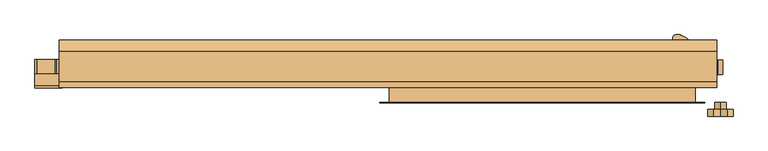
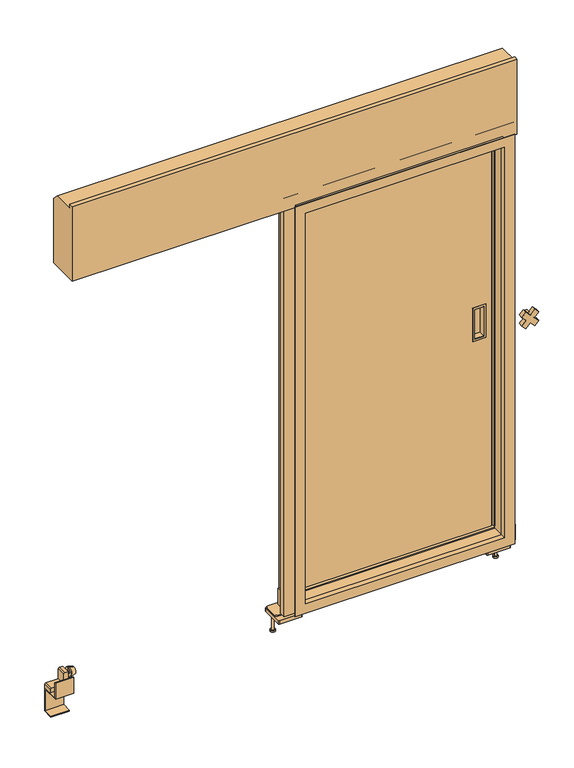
"""IFC4 building model written with IfcOpenShell, lengths in millimetres: door geometry, 冷蔵_片引きスライドドア4方_自閉 : W870xH1800xt55."""

from ifc_helpers import new_model, si_unit, point, frame, frame_2d, origin, place, context, project, spatial, polyline, circle_curve, trimmed, segment, composite_curve, outline, extrude, faceted_brep, source, transform, mapped, element, save
from ifc_brep_helpers import plane_surface, cylinder_surface, revolved_surface, advanced_brep


def door_ed1821af(model_context):
    return source(origin(), model_context, "Body", "SolidModel", [
        faceted_brep([(470.0, 112.5, 1835.0), (-470.0, 112.5, 1835.0), (-470.0, 68.5, 1835.0), (470.0, 68.5, 1835.0), (470.0, 112.5, -35.0), (470.0, 68.5, -35.0), (-470.0, 68.5, -35.0), (-470.0, 112.5, -35.0), (-425.0, 68.5, 1790.0), (425.0, 68.5, 1790.0), (425.0, 68.5, 10.0), (-425.0, 68.5, 10.0), (-425.0, 57.5, 1790.0), (425.0, 57.5, 1790.0), (425.0, 57.5, 10.0), (-425.0, 57.5, 10.0), (350.500035, 57.5, 1033.0), (390.500035, 57.5, 1033.0), (390.500035, 57.5, 897.0), (350.500035, 57.5, 897.0), (350.500035, 85.5, 1033.0), (390.500035, 85.5, 1033.0), (350.500035, 85.5, 897.0), (390.500035, 85.5, 897.0)], [[[0, 1, 2, 3]], [[4, 5, 6, 7]], [[1, 0, 4, 7]], [[2, 1, 7, 6]], [[3, 2, 6, 5], [8, 9, 10, 11]], [[0, 3, 5, 4]], [[8, 12, 13, 9]], [[10, 14, 15, 11]], [[12, 8, 11, 15]], [[13, 12, 15, 14], [16, 17, 18, 19]], [[9, 13, 14, 10]], [[20, 21, 17, 16]], [[20, 16, 19, 22]], [[22, 19, 18, 23]], [[17, 21, 23, 18]], [[21, 20, 22, 23]]]),
        extrude(outline(polyline([(1042.0, 399.500035), (1042.0, 341.500035), (888.0, 341.500035), (888.0, 399.500035), (1042.0, 399.500035)]), holes=[polyline([(897.0, 390.500035), (897.0, 350.500035), (1033.0, 350.500035), (1033.0, 390.500035), (897.0, 390.500035)])]), frame((0.0, 55.499995, 0.0), z_axis=(0.0, 1.0, 0.0), x_axis=(0.0, 0.0, 1.0)), (0.0, 0.0, 1.0), 2.000005),
        extrude(outline(polyline([(73.49997, -69.99999), (61.49997, -57.99999), (61.49997, 5.00001), (111.49997, 5.00001), (111.49997, -69.99999), (73.49997, -69.99999)])), frame((-476.0, 0.0, 0.0), z_axis=(1.0, 0.0, 0.0), x_axis=(0.0, 1.0, 0.0)), (0.0, 0.0, 1.0), 6.0),
        extrude(outline(polyline([(73.49997, -69.99999), (61.49997, -57.99999), (61.49997, 5.00001), (111.49997, 5.00001), (111.49997, -69.99999), (73.49997, -69.99999)])), frame((470.0, 0.0, 0.0), z_axis=(1.0, 0.0, 0.0), x_axis=(0.0, 1.0, 0.0)), (0.0, 0.0, 1.0), 6.0),
        extrude(outline(polyline([(470.0, 112.5), (470.0, 77.49997), (-470.0, 77.49997), (-470.0, 112.5), (470.0, 112.5)])), frame((0.0, 0.0, -69.99999), z_axis=(0.0, 0.0, 1.0), x_axis=(1.0, 0.0, 0.0)), (0.0, 0.0, 1.0), 34.99999),
        extrude(outline(polyline([(-460.4985861, 68.5), (460.4985861, 68.5), (460.4985861, 51.499345), (-460.4985861, 51.499345), (-460.4985861, 68.5)])), frame((0.0, 0.0, -25.0), z_axis=(0.0, 0.0, 1.0), x_axis=(1.0, 0.0, 0.0)), (0.0, 0.0, 1.0), 28.0),
        extrude(outline(polyline([(460.4985861, 48.9116213), (432.5014439, 48.9116213), (432.5014439, 68.5), (460.4985861, 68.5), (460.4985861, 48.9116213)])), frame((0.0, 0.0, 10.0), z_axis=(0.0, 0.0, 1.0), x_axis=(1.0, 0.0, 0.0)), (0.0, 0.0, 1.0), 1780.0),
        extrude(outline(polyline([(-460.4985861, 48.9116213), (-460.4985861, 68.5), (-432.5014439, 68.5), (-432.5014439, 48.9116213), (-460.4985861, 48.9116213)])), frame((0.0, 0.0, 10.0), z_axis=(0.0, 0.0, 1.0), x_axis=(1.0, 0.0, 0.0)), (0.0, 0.0, 1.0), 1780.0),
        extrude(outline(polyline([(460.4985861, 68.5), (460.4985861, 48.9116213), (-460.4985861, 48.9116213), (-460.4985861, 68.5), (460.4985861, 68.5)])), frame((0.0, 0.0, 1797.4986091), z_axis=(0.0, 0.0, 1.0), x_axis=(1.0, 0.0, 0.0)), (0.0, 0.0, 1.0), 28.0),
        extrude(outline(composite_curve([segment(trimmed(circle_curve(frame_2d((-405.4900822, 152.0220459)), 2.0), [point((-405.4900822, 154.0220459))], [point((-403.4900822, 152.0220459))], False, "CARTESIAN"), True, "CONTINUOUS"), segment(polyline([(-403.4900822, 152.0220459), (-403.4900822, 54.0220459)]), True, "CONTINUOUS"), segment(trimmed(circle_curve(frame_2d((-405.4900822, 54.0220459)), 2.0), [point((-403.4900822, 54.0220459))], [point((-405.4900822, 52.0220459))], False, "CARTESIAN"), True, "CONTINUOUS"), segment(polyline([(-405.4900822, 52.0220459), (-503.4900822, 52.0220459)]), True, "CONTINUOUS"), segment(trimmed(circle_curve(frame_2d((-503.4900822, 54.0220459)), 2.0), [point((-503.4900822, 52.0220459))], [point((-505.4900822, 54.0220459))], False, "CARTESIAN"), True, "CONTINUOUS"), segment(polyline([(-505.4900822, 54.0220459), (-505.4900822, 152.0220459)]), True, "CONTINUOUS"), segment(trimmed(circle_curve(frame_2d((-503.4900822, 152.0220459)), 2.0), [point((-505.4900822, 152.0220459))], [point((-503.4900822, 154.0220459))], False, "CARTESIAN"), True, "CONTINUOUS"), segment(polyline([(-503.4900822, 154.0220459), (-405.4900822, 154.0220459)]), True, "CONTINUOUS")], self_intersect=False)), frame((0.0, 0.0, -115.0), z_axis=(0.0, 0.0, 1.0), x_axis=(1.0, 0.0, 0.0)), (0.0, 0.0, 1.0), 15.0),
        extrude(outline(composite_curve([segment(polyline([(-434.000235, 141.49999), (-434.000235, 90.49999)]), True, "CONTINUOUS"), segment(trimmed(circle_curve(frame_2d((-444.000235, 90.49999)), 10.0), [point((-434.000235, 90.49999))], [point((-444.000235, 80.49999))], False, "CARTESIAN"), True, "CONTINUOUS"), segment(polyline([(-444.000235, 80.49999), (-495.00103, 80.49999)]), True, "CONTINUOUS"), segment(trimmed(circle_curve(frame_2d((-495.00103, 90.49999)), 10.0), [point((-495.00103, 80.49999))], [point((-505.00103, 90.49999))], False, "CARTESIAN"), True, "CONTINUOUS"), segment(polyline([(-505.00103, 90.49999), (-505.00103, 141.49999)]), True, "CONTINUOUS"), segment(trimmed(circle_curve(frame_2d((-495.00103, 141.49999)), 10.0), [point((-505.00103, 141.49999))], [point((-495.00103, 151.49999))], False, "CARTESIAN"), True, "CONTINUOUS"), segment(polyline([(-495.00103, 151.49999), (-444.000235, 151.49999)]), True, "CONTINUOUS"), segment(trimmed(circle_curve(frame_2d((-444.000235, 141.49999)), 10.0), [point((-444.000235, 151.49999))], [point((-434.000235, 141.49999))], False, "CARTESIAN"), True, "CONTINUOUS")], self_intersect=False)), frame((0.0, 0.0, -100.0), z_axis=(0.0, 0.0, 1.0), x_axis=(1.0, 0.0, 0.0)), (0.0, 0.0, 1.0), 6.0),
        extrude(outline(composite_curve([segment(trimmed(circle_curve(frame_2d((503.00095, 152.0)), 2.0), [point((503.00095, 154.0))], [point((505.00095, 152.0))], False, "CARTESIAN"), True, "CONTINUOUS"), segment(polyline([(505.00095, 152.0), (505.00095, 54.0)]), True, "CONTINUOUS"), segment(trimmed(circle_curve(frame_2d((503.00095, 54.0)), 2.0), [point((505.00095, 54.0))], [point((503.00095, 52.0))], False, "CARTESIAN"), True, "CONTINUOUS"), segment(polyline([(503.00095, 52.0), (405.00095, 52.0)]), True, "CONTINUOUS"), segment(trimmed(circle_curve(frame_2d((405.00095, 54.0)), 2.0), [point((405.00095, 52.0))], [point((403.00095, 54.0))], False, "CARTESIAN"), True, "CONTINUOUS"), segment(polyline([(403.00095, 54.0), (403.00095, 152.0)]), True, "CONTINUOUS"), segment(trimmed(circle_curve(frame_2d((405.00095, 152.0)), 2.0), [point((403.00095, 152.0))], [point((405.00095, 154.0))], False, "CARTESIAN"), True, "CONTINUOUS"), segment(polyline([(405.00095, 154.0), (503.00095, 154.0)]), True, "CONTINUOUS")], self_intersect=False)), frame((0.0, 0.0, -115.0), z_axis=(0.0, 0.0, 1.0), x_axis=(1.0, 0.0, 0.0)), (0.0, 0.0, 1.0), 15.0),
        extrude(outline(composite_curve([segment(polyline([(504.50103, 141.49999), (504.50103, 90.49999)]), True, "CONTINUOUS"), segment(trimmed(circle_curve(frame_2d((494.50103, 90.49999)), 10.0), [point((504.50103, 90.49999))], [point((494.50103, 80.49999))], False, "CARTESIAN"), True, "CONTINUOUS"), segment(polyline([(494.50103, 80.49999), (443.500235, 80.49999)]), True, "CONTINUOUS"), segment(trimmed(circle_curve(frame_2d((443.500235, 90.49999)), 10.0), [point((443.500235, 80.49999))], [point((433.500235, 90.49999))], False, "CARTESIAN"), True, "CONTINUOUS"), segment(polyline([(433.500235, 90.49999), (433.500235, 141.49999)]), True, "CONTINUOUS"), segment(trimmed(circle_curve(frame_2d((443.500235, 141.49999)), 10.0), [point((433.500235, 141.49999))], [point((443.500235, 151.49999))], False, "CARTESIAN"), True, "CONTINUOUS"), segment(polyline([(443.500235, 151.49999), (494.50103, 151.49999)]), True, "CONTINUOUS"), segment(trimmed(circle_curve(frame_2d((494.50103, 141.49999)), 10.0), [point((494.50103, 151.49999))], [point((504.50103, 141.49999))], False, "CARTESIAN"), True, "CONTINUOUS")], self_intersect=False)), frame((0.0, 0.0, -100.0), z_axis=(0.0, 0.0, 1.0), x_axis=(1.0, 0.0, 0.0)), (0.0, 0.0, 1.0), 6.0),
        extrude(outline(polyline([(-93.999374, 532.0), (-24.00937, 532.0), (-24.00229, 517.0), (-29.00275, 511.99999), (-74.00938, 511.99999), (-74.00689, 457.0), (-79.00735, 451.99999), (-94.00939, 451.99999), (-93.999374, 532.0)])), frame((0.0, 61.99775, 0.0), z_axis=(0.0, 1.0, 0.0), x_axis=(0.0, 0.0, 1.0)), (0.0, 0.0, 1.0), 42.00225),
        extrude(outline(polyline([(1037.123106, 544.9454365), (1017.6776695, 525.5), (1037.123106, 506.0545635), (1019.4454365, 488.376894), (1000.0, 507.8223305), (980.5545635, 488.376894), (962.876894, 506.0545635), (982.3223305, 525.5), (962.876894, 544.9454365), (980.5545635, 562.623106), (1000.0, 543.1776695), (1019.4454365, 562.623106), (1037.123106, 544.9454365)])), frame((0.0, -62.0, 0.0), z_axis=(0.0, 1.0, 0.0), x_axis=(0.0, 0.0, 1.0)), (0.0, 0.0, 1.0), 20.0),
        extrude(outline(composite_curve([segment(trimmed(circle_curve(frame_2d((1000.0, 525.5)), 16.99999), [point((983.00001, 525.5))], [point((1016.99999, 525.5))], False, "CARTESIAN"), True, "CONTINUOUS"), segment(trimmed(circle_curve(frame_2d((1000.0, 525.5)), 16.99999), [point((1016.99999, 525.5))], [point((983.00001, 525.5))], False, "CARTESIAN"), True, "CONTINUOUS")], self_intersect=False)), frame((0.0, -42.0, 0.0), z_axis=(0.0, 1.0, 0.0), x_axis=(0.0, 0.0, 1.0)), (0.0, 0.0, 1.0), 20.0),
        advanced_brep(
        [(-1404.999995, 85.0, -58.99311), (-1404.999995, 85.0, -19.0), (-1404.999995, 85.0, -30.996555), (-1404.999995, 85.0, -46.996555), (-1400.999995, 85.0, -58.99311), (-1400.999995, 85.0, -19.0), (-1380.999995, 85.0, -53.9931073), (-1380.999995, 85.0, -24.0000027), (-1380.999995, 85.0, -38.996555), (-1416.99999, 85.0, -46.996555), (-1416.99999, 85.0, -30.996555), (-1416.99999, 85.0, -38.996555)],
        [
            (0, 1, circle_curve(frame((-1404.999995, 85.0, -38.996555), z_axis=(-1.0, 0.0, 0.0), x_axis=(0.0, 0.0, 1.0)), 19.996555)),
            (1, 2),
            (2, 3, circle_curve(frame((-1404.999995, 85.0, -38.996555), z_axis=(1.0, 0.0, 0.0), x_axis=(0.0, 0.0, 1.0)), 8.0)),
            (3, 0),
            (1, 0, circle_curve(frame((-1404.999995, 85.0, -38.996555), z_axis=(-1.0, 0.0, 0.0), x_axis=(0.0, 0.0, 1.0)), 19.996555)),
            (3, 2, circle_curve(frame((-1404.999995, 85.0, -38.996555), z_axis=(1.0, 0.0, 0.0), x_axis=(0.0, 0.0, 1.0)), 8.0)),
            (4, 5, circle_curve(frame((-1400.999995, 85.0, -38.996555), z_axis=(-1.0, 0.0, 0.0), x_axis=(0.0, 0.0, 1.0)), 19.996555)),
            (5, 1),
            (0, 4),
            (5, 4, circle_curve(frame((-1400.999995, 85.0, -38.996555), z_axis=(-1.0, 0.0, 0.0), x_axis=(0.0, 0.0, 1.0)), 19.996555)),
            (6, 7, circle_curve(frame((-1380.999995, 85.0, -38.996555), z_axis=(-1.0, 0.0, 0.0), x_axis=(0.0, 0.0, 1.0)), 14.9965523)),
            (7, 5),
            (4, 6),
            (7, 6, circle_curve(frame((-1380.999995, 85.0, -38.996555), z_axis=(-1.0, 0.0, 0.0), x_axis=(0.0, 0.0, 1.0)), 14.9965523)),
            (8, 7),
            (6, 8),
            (9, 10, circle_curve(frame((-1416.99999, 85.0, -38.996555), z_axis=(-1.0, 0.0, 0.0), x_axis=(0.0, 0.0, 1.0)), 8.0)),
            (10, 11),
            (11, 9),
            (10, 9, circle_curve(frame((-1416.99999, 85.0, -38.996555), z_axis=(-1.0, 0.0, 0.0), x_axis=(0.0, 0.0, 1.0)), 8.0)),
            (2, 10),
            (9, 3),
        ],
        [
            plane_surface(frame((-1404.999995, 85.0, -38.996555), z_axis=(-1.0, 0.0, 0.0), x_axis=(0.0, 0.0, 1.0))),
            cylinder_surface(frame((-1380.999995, 85.0, -38.996555), z_axis=(1.0, 0.0, 0.0), x_axis=(0.0, 0.0, 1.0)), 19.996555),
            revolved_surface(polyline([(-1400.999995, 85.0, -19.0), (-1380.999995, 85.0, -24.0000027)]), (-1380.999995, 85.0, -38.996555), (1.0, 0.0, 0.0)),
            plane_surface(frame((-1380.999995, 85.0, -38.996555), z_axis=(1.0, 0.0, 0.0), x_axis=(0.0, 0.0, 1.0))),
            plane_surface(frame((-1416.99999, 85.0, -38.996555), z_axis=(-1.0, 0.0, 0.0), x_axis=(0.0, 0.0, 1.0))),
            cylinder_surface(frame((-1380.999995, 85.0, -38.996555), z_axis=(1.0, 0.0, 0.0), x_axis=(0.0, 0.0, 1.0)), 8.0),
        ],
        [
            (0, [[1, 2, 3, 4]]),
            (0, [[5, -4, 6, -2]]),
            (1, [[7, 8, -1, 9]]),
            (1, [[10, -9, -5, -8]]),
            (2, [[11, 12, -7, 13]]),
            (2, [[14, -13, -10, -12]]),
            (3, [[15, -11, 16]]),
            (3, [[-16, -14, -15]]),
            (4, [[17, 18, 19]]),
            (4, [[20, -19, -18]]),
            (5, [[-3, 21, -17, 22]]),
            (5, [[-6, -22, -20, -21]]),
        ],
    ),
        extrude(outline(polyline([(-91.983954, -1416.99999), (-21.99395, -1416.99999), (-21.98687, -1431.99999), (-26.98733, -1437.0), (-71.99396, -1437.0), (-71.99147, -1491.99999), (-76.99193, -1497.0), (-91.99397, -1497.0), (-91.983954, -1416.99999)])), frame((0.0, 63.99775, 0.0), z_axis=(0.0, 1.0, 0.0), x_axis=(0.0, 0.0, 1.0)), (0.0, 0.0, 1.0), 42.00225),
        advanced_brep(
        [(499.999995, 83.0, -61.00853), (499.999995, 83.0, -21.01542), (499.999995, 83.0, -33.011975), (499.999995, 83.0, -49.011975), (495.999995, 83.0, -61.00853), (495.999995, 83.0, -21.01542), (475.999995, 83.0, -56.0085273), (475.999995, 83.0, -26.0154227), (475.999995, 83.0, -41.011975), (511.99999, 83.0, -49.011975), (511.99999, 83.0, -33.011975), (511.99999, 83.0, -41.011975)],
        [
            (0, 1, circle_curve(frame((499.999995, 83.0, -41.011975), z_axis=(1.0, 0.0, 0.0), x_axis=(0.0, 0.0, 1.0)), 19.996555)),
            (1, 2),
            (2, 3, circle_curve(frame((499.999995, 83.0, -41.011975), z_axis=(-1.0, 0.0, 0.0), x_axis=(0.0, 0.0, 1.0)), 8.0)),
            (3, 0),
            (1, 0, circle_curve(frame((499.999995, 83.0, -41.011975), z_axis=(1.0, 0.0, 0.0), x_axis=(0.0, 0.0, 1.0)), 19.996555)),
            (3, 2, circle_curve(frame((499.999995, 83.0, -41.011975), z_axis=(-1.0, 0.0, 0.0), x_axis=(0.0, 0.0, 1.0)), 8.0)),
            (4, 5, circle_curve(frame((495.999995, 83.0, -41.011975), z_axis=(1.0, 0.0, 0.0), x_axis=(0.0, 0.0, 1.0)), 19.996555)),
            (5, 1),
            (0, 4),
            (5, 4, circle_curve(frame((495.999995, 83.0, -41.011975), z_axis=(1.0, 0.0, 0.0), x_axis=(0.0, 0.0, 1.0)), 19.996555)),
            (6, 7, circle_curve(frame((475.999995, 83.0, -41.011975), z_axis=(1.0, 0.0, 0.0), x_axis=(0.0, 0.0, 1.0)), 14.9965523)),
            (7, 5),
            (4, 6),
            (7, 6, circle_curve(frame((475.999995, 83.0, -41.011975), z_axis=(1.0, 0.0, 0.0), x_axis=(0.0, 0.0, 1.0)), 14.9965523)),
            (8, 7),
            (6, 8),
            (9, 10, circle_curve(frame((511.99999, 83.0, -41.011975), z_axis=(1.0, 0.0, 0.0), x_axis=(0.0, 0.0, 1.0)), 8.0)),
            (10, 11),
            (11, 9),
            (10, 9, circle_curve(frame((511.99999, 83.0, -41.011975), z_axis=(1.0, 0.0, 0.0), x_axis=(0.0, 0.0, 1.0)), 8.0)),
            (2, 10),
            (9, 3),
        ],
        [
            plane_surface(frame((499.999995, 83.0, -41.011975), z_axis=(1.0, 0.0, 0.0), x_axis=(0.0, 0.0, 1.0))),
            cylinder_surface(frame((475.999995, 83.0, -41.011975), z_axis=(-1.0, 0.0, 0.0), x_axis=(0.0, 0.0, 1.0)), 19.996555),
            revolved_surface(polyline([(495.999995, 83.0, -21.01542), (475.999995, 83.0, -26.0154227)]), (475.999995, 83.0, -41.011975), (-1.0, 0.0, 0.0)),
            plane_surface(frame((475.999995, 83.0, -41.011975), z_axis=(-1.0, 0.0, 0.0), x_axis=(0.0, 0.0, 1.0))),
            plane_surface(frame((511.99999, 83.0, -41.011975), z_axis=(1.0, 0.0, 0.0), x_axis=(0.0, 0.0, 1.0))),
            cylinder_surface(frame((475.999995, 83.0, -41.011975), z_axis=(-1.0, 0.0, 0.0), x_axis=(0.0, 0.0, 1.0)), 8.0),
        ],
        [
            (0, [[1, 2, 3, 4]]),
            (0, [[5, -4, 6, -2]]),
            (1, [[7, 8, -1, 9]]),
            (1, [[10, -9, -5, -8]]),
            (2, [[11, 12, -7, 13]]),
            (2, [[14, -13, -10, -12]]),
            (3, [[15, -11, 16]]),
            (3, [[-16, -14, -15]]),
            (4, [[17, 18, 19]]),
            (4, [[20, -19, -18]]),
            (5, [[-3, 21, -17, 22]]),
            (5, [[-6, -22, -20, -21]]),
        ],
    ),
        extrude(outline(polyline([(162.5, 2102.61005), (162.5, 1805.000385), (22.0, 1805.000385), (22.0, 2150.0), (38.499875, 2150.0), (38.499875, 2134.99995), (130.1101, 2134.99995), (162.5, 2102.61005)])), frame((-1425.0, 0.0, 0.0), z_axis=(1.0, 0.0, 0.0), x_axis=(0.0, 1.0, 0.0)), (0.0, 0.0, 1.0), 1940.0),
        faceted_brep([(451.00103, 22.0, -16.00103), (451.00103, -22.0, -16.00103), (-451.00103, -22.0, -16.00103), (-451.00103, 22.0, -16.00103), (-451.00103, -22.0, 1816.00103), (-451.00103, 22.0, 1816.00103), (451.00103, -22.0, 1816.00103), (-435.0, -22.0, 1800.0), (435.0, -22.0, 1800.0), (435.0, -22.0, 0.0), (-435.0, -22.0, 0.0), (-500.0, 22.0, -65.0), (500.0, 22.0, -65.0), (500.0, 22.0, 1865.0), (-500.0, 22.0, 1865.0), (451.00103, 22.0, 1816.00103), (500.0, 49.0, -65.0), (-500.0, 49.0, -65.0), (-500.0, 49.0, 1865.0), (500.0, 49.0, 1865.0), (-435.0, 49.0, 0.0), (435.0, 49.0, 0.0), (435.0, 49.0, 1800.0), (-435.0, 49.0, 1800.0)], [[[0, 1, 2, 3]], [[3, 2, 4, 5]], [[2, 1, 6, 4], [7, 8, 9, 10]], [[11, 12, 13, 14], [5, 15, 0, 3]], [[16, 12, 11, 17]], [[17, 11, 14, 18]], [[18, 19, 16, 17], [20, 21, 22, 23]], [[9, 21, 20, 10]], [[10, 20, 23, 7]], [[15, 6, 1, 0]], [[19, 13, 12, 16]], [[8, 22, 21, 9]], [[5, 4, 6, 15]], [[18, 14, 13, 19]], [[7, 23, 22, 8]]]),
        faceted_brep([(479.0, -22.0, -44.0), (479.0, -23.2, -44.0), (-479.0, -23.2, -44.0), (-479.0, -22.0, -44.0), (-479.0, -23.2, 1844.0), (-479.0, -22.0, 1844.0), (479.0, -23.2, 1844.0), (-433.8, -23.2, 1798.8), (433.8, -23.2, 1798.8), (433.8, -23.2, 1.2), (-433.8, -23.2, 1.2), (479.0, -22.0, 1844.0), (-435.0, -22.0, 0.0), (435.0, -22.0, 0.0), (435.0, -22.0, 1800.0), (-435.0, -22.0, 1800.0), (435.0, -1.2, 0.0), (-435.0, -1.2, 0.0), (-435.0, -1.2, 1800.0), (435.0, -1.2, 1800.0), (-433.8, -1.2, 1.2), (433.8, -1.2, 1.2), (433.8, -1.2, 1798.8), (-433.8, -1.2, 1798.8)], [[[0, 1, 2, 3]], [[3, 2, 4, 5]], [[2, 1, 6, 4], [7, 8, 9, 10]], [[5, 11, 0, 3], [12, 13, 14, 15]], [[16, 13, 12, 17]], [[17, 12, 15, 18]], [[18, 19, 16, 17], [20, 21, 22, 23]], [[9, 21, 20, 10]], [[10, 20, 23, 7]], [[11, 6, 1, 0]], [[19, 14, 13, 16]], [[8, 22, 21, 9]], [[5, 4, 6, 11]], [[18, 15, 14, 19]], [[7, 23, 22, 8]]]),
        advanced_brep(
        [(408.6234406, 177.3571279, 745.0), (408.6234402, 157.6428419, 745.0), (404.50281, 156.499985, 745.0), (393.89726, 156.499985, 745.0), (389.7766295, 157.6428424, 745.0), (389.7766298, 177.3571281, 745.0), (393.89726, 178.499985, 745.0), (404.50281, 178.499985, 745.0), (408.6234406, 177.3571279, 1245.0), (408.6234402, 157.6428419, 1245.0), (404.50281, 156.499985, 1245.0), (393.89726, 156.499985, 1245.0), (389.7766295, 157.6428424, 1245.0), (389.7766298, 177.3571281, 1245.0), (393.89726, 178.499985, 1245.0), (404.50281, 178.499985, 1245.0)],
        [
            (0, 1, circle_curve(frame((402.700035, 167.499985, 745.0), z_axis=(0.0, 0.0, -1.0), x_axis=(0.0, -1.0, 0.0)), 11.5)),
            (1, 2, circle_curve(frame((404.50281, 164.499985, 745.0), z_axis=(0.0, 0.0, -1.0), x_axis=(0.0, -1.0, 0.0)), 8.0)),
            (2, 3),
            (3, 4, circle_curve(frame((393.89726, 164.499985, 745.0), z_axis=(0.0, 0.0, -1.0), x_axis=(0.0, -1.0, 0.0)), 8.0)),
            (4, 5, circle_curve(frame((395.700035, 167.499985, 745.0), z_axis=(0.0, 0.0, -1.0), x_axis=(0.0, -1.0, 0.0)), 11.5)),
            (5, 6, circle_curve(frame((393.89726, 170.499985, 745.0), z_axis=(0.0, 0.0, -1.0), x_axis=(0.0, -1.0, 0.0)), 8.0)),
            (6, 7),
            (7, 0, circle_curve(frame((404.50281, 170.499985, 745.0), z_axis=(0.0, 0.0, -1.0), x_axis=(0.0, -1.0, 0.0)), 8.0)),
            (8, 9, circle_curve(frame((402.700035, 167.499985, 1245.0), z_axis=(0.0, 0.0, -1.0), x_axis=(0.0, -1.0, 0.0)), 11.5)),
            (9, 1),
            (0, 8),
            (9, 10, circle_curve(frame((404.50281, 164.499985, 1245.0), z_axis=(0.0, 0.0, -1.0), x_axis=(0.0, -1.0, 0.0)), 8.0)),
            (10, 2),
            (10, 11),
            (11, 3),
            (11, 12, circle_curve(frame((393.89726, 164.499985, 1245.0), z_axis=(0.0, 0.0, -1.0), x_axis=(0.0, -1.0, 0.0)), 8.0)),
            (12, 4),
            (12, 13, circle_curve(frame((395.700035, 167.499985, 1245.0), z_axis=(0.0, 0.0, -1.0), x_axis=(0.0, -1.0, 0.0)), 11.5)),
            (13, 5),
            (13, 14, circle_curve(frame((393.89726, 170.499985, 1245.0), z_axis=(0.0, 0.0, -1.0), x_axis=(0.0, -1.0, 0.0)), 8.0)),
            (14, 6),
            (14, 15),
            (15, 7),
            (15, 8, circle_curve(frame((404.50281, 170.499985, 1245.0), z_axis=(0.0, 0.0, -1.0), x_axis=(0.0, -1.0, 0.0)), 8.0)),
        ],
        [
            plane_surface(frame((404.50281, 162.499985, 745.0), z_axis=(0.0, 0.0, -1.0), x_axis=(-1.0, 0.0, 0.0))),
            cylinder_surface(frame((402.700035, 167.499985, 745.0), z_axis=(0.0, 0.0, 1.0), x_axis=(0.0, -1.0, 0.0)), 11.5),
            cylinder_surface(frame((404.50281, 164.499985, 745.0), z_axis=(0.0, 0.0, 1.0), x_axis=(0.0, -1.0, 0.0)), 8.0),
            plane_surface(frame((393.89726, 156.499985, 1245.0), z_axis=(0.0, -1.0, 0.0), x_axis=(0.0, 0.0, -1.0))),
            cylinder_surface(frame((393.89726, 164.499985, 745.0), z_axis=(0.0, 0.0, 1.0), x_axis=(0.0, -1.0, 0.0)), 8.0),
            cylinder_surface(frame((395.700035, 167.499985, 745.0), z_axis=(0.0, 0.0, 1.0), x_axis=(0.0, -1.0, 0.0)), 11.5),
            cylinder_surface(frame((393.89726, 170.499985, 745.0), z_axis=(0.0, 0.0, 1.0), x_axis=(0.0, -1.0, 0.0)), 8.0),
            plane_surface(frame((404.50281, 178.499985, 1245.0), z_axis=(0.0, 1.0, 0.0), x_axis=(0.0, 0.0, -1.0))),
            cylinder_surface(frame((404.50281, 170.499985, 745.0), z_axis=(0.0, 0.0, 1.0), x_axis=(0.0, -1.0, 0.0)), 8.0),
            plane_surface(frame((404.50281, 162.499985, 1245.0), z_axis=(0.0, 0.0, 1.0), x_axis=(1.0, 0.0, 0.0))),
        ],
        [
            (0, [[1, 2, 3, 4, 5, 6, 7, 8]]),
            (1, [[9, 10, -1, 11]]),
            (2, [[12, 13, -2, -10]]),
            (3, [[14, 15, -3, -13]]),
            (4, [[16, 17, -4, -15]]),
            (5, [[18, 19, -5, -17]]),
            (6, [[20, 21, -6, -19]]),
            (7, [[22, 23, -7, -21]]),
            (8, [[24, -11, -8, -23]]),
            (9, [[-24, -22, -20, -18, -16, -14, -12, -9]]),
        ],
    ),
        advanced_brep(
        [(-486.00103, 132.5, -200.0), (-476.00103, 132.5, -200.0), (-496.00103, 132.5, -200.0), (-491.00103, 132.5, -115.0), (-481.00103, 132.5, -115.0), (-486.00103, 132.5, -115.0), (-491.00103, 132.5, -193.0), (-481.00103, 132.5, -193.0), (-496.00103, 132.5, -193.0), (-476.00103, 132.5, -193.0)],
        [
            (0, 1),
            (1, 2, circle_curve(frame((-486.00103, 132.5, -200.0), z_axis=(0.0, 0.0, -1.0), x_axis=(1.0, 0.0, 0.0)), 10.0)),
            (2, 0),
            (2, 1, circle_curve(frame((-486.00103, 132.5, -200.0), z_axis=(0.0, 0.0, -1.0), x_axis=(1.0, 0.0, 0.0)), 10.0)),
            (3, 4, circle_curve(frame((-486.00103, 132.5, -115.0), z_axis=(0.0, 0.0, 1.0), x_axis=(1.0, 0.0, 0.0)), 5.0)),
            (4, 5),
            (5, 3),
            (4, 3, circle_curve(frame((-486.00103, 132.5, -115.0), z_axis=(0.0, 0.0, 1.0), x_axis=(1.0, 0.0, 0.0)), 5.0)),
            (6, 7, circle_curve(frame((-486.00103, 132.5, -193.0), z_axis=(0.0, 0.0, 1.0), x_axis=(1.0, 0.0, 0.0)), 5.0)),
            (7, 4),
            (3, 6),
            (7, 6, circle_curve(frame((-486.00103, 132.5, -193.0), z_axis=(0.0, 0.0, 1.0), x_axis=(1.0, 0.0, 0.0)), 5.0)),
            (8, 9, circle_curve(frame((-486.00103, 132.5, -193.0), z_axis=(0.0, 0.0, 1.0), x_axis=(1.0, 0.0, 0.0)), 10.0)),
            (9, 7),
            (6, 8),
            (9, 8, circle_curve(frame((-486.00103, 132.5, -193.0), z_axis=(0.0, 0.0, 1.0), x_axis=(1.0, 0.0, 0.0)), 10.0)),
            (1, 9),
            (8, 2),
        ],
        [
            plane_surface(frame((-486.00103, 132.5, -200.0), z_axis=(0.0, 0.0, -1.0), x_axis=(1.0, 0.0, 0.0))),
            plane_surface(frame((-486.00103, 132.5, -115.0), z_axis=(0.0, 0.0, 1.0), x_axis=(1.0, 0.0, 0.0))),
            cylinder_surface(frame((-486.00103, 132.5, -262.0), z_axis=(0.0, 0.0, -1.0), x_axis=(1.0, 0.0, 0.0)), 5.0),
            plane_surface(frame((-486.00103, 132.5, -193.0), z_axis=(0.0, 0.0, 1.0), x_axis=(1.0, 0.0, 0.0))),
            cylinder_surface(frame((-486.00103, 132.5, -262.0), z_axis=(0.0, 0.0, -1.0), x_axis=(1.0, 0.0, 0.0)), 10.0),
        ],
        [
            (0, [[1, 2, 3]]),
            (0, [[-3, 4, -1]]),
            (1, [[5, 6, 7]]),
            (1, [[8, -7, -6]]),
            (2, [[9, 10, -5, 11]]),
            (2, [[12, -11, -8, -10]]),
            (3, [[13, 14, -9, 15]]),
            (3, [[16, -15, -12, -14]]),
            (4, [[-2, 17, -13, 18]]),
            (4, [[-4, -18, -16, -17]]),
        ],
    ),
        advanced_brep(
        [(-445.000235, 99.5, -72.0), (-461.000235, 99.5, -72.0), (-461.000235, 99.5, -94.0), (-445.000235, 99.5, -94.0), (-453.000235, 99.5, -94.0), (-453.000235, 99.5, -47.0), (-465.000235, 99.5, -47.0), (-441.000235, 99.5, -47.0), (-465.000235, 99.5, -72.0), (-441.000235, 99.5, -72.0)],
        [
            (0, 1, circle_curve(frame((-453.000235, 99.5, -72.0), z_axis=(0.0, 0.0, -1.0), x_axis=(-1.0, 0.0, 0.0)), 8.0)),
            (1, 2),
            (2, 3, circle_curve(frame((-453.000235, 99.5, -94.0), z_axis=(0.0, 0.0, 1.0), x_axis=(-1.0, 0.0, 0.0)), 8.0)),
            (3, 0),
            (1, 0, circle_curve(frame((-453.000235, 99.5, -72.0), z_axis=(0.0, 0.0, -1.0), x_axis=(-1.0, 0.0, 0.0)), 8.0)),
            (3, 2, circle_curve(frame((-453.000235, 99.5, -94.0), z_axis=(0.0, 0.0, 1.0), x_axis=(-1.0, 0.0, 0.0)), 8.0)),
            (2, 4),
            (4, 3),
            (5, 6),
            (6, 7, circle_curve(frame((-453.000235, 99.5, -47.0), z_axis=(0.0, 0.0, 1.0), x_axis=(-1.0, 0.0, 0.0)), 12.0)),
            (7, 5),
            (7, 6, circle_curve(frame((-453.000235, 99.5, -47.0), z_axis=(0.0, 0.0, 1.0), x_axis=(-1.0, 0.0, 0.0)), 12.0)),
            (6, 8),
            (8, 9, circle_curve(frame((-453.000235, 99.5, -72.0), z_axis=(0.0, 0.0, 1.0), x_axis=(-1.0, 0.0, 0.0)), 12.0)),
            (9, 7),
            (9, 8, circle_curve(frame((-453.000235, 99.5, -72.0), z_axis=(0.0, 0.0, 1.0), x_axis=(-1.0, 0.0, 0.0)), 12.0)),
            (8, 1),
            (0, 9),
        ],
        [
            cylinder_surface(frame((-453.000235, 99.5, -108.3617704), z_axis=(0.0, 0.0, 1.0), x_axis=(-1.0, 0.0, 0.0)), 8.0),
            plane_surface(frame((-453.000235, 99.5, -94.0), z_axis=(0.0, 0.0, -1.0), x_axis=(-1.0, 0.0, 0.0))),
            plane_surface(frame((-453.000235, 99.5, -47.0), z_axis=(0.0, 0.0, 1.0), x_axis=(-1.0, 0.0, 0.0))),
            cylinder_surface(frame((-453.000235, 99.5, -108.3617704), z_axis=(0.0, 0.0, 1.0), x_axis=(-1.0, 0.0, 0.0)), 12.0),
            plane_surface(frame((-453.000235, 99.5, -72.0), z_axis=(0.0, 0.0, -1.0), x_axis=(-1.0, 0.0, 0.0))),
        ],
        [
            (0, [[1, 2, 3, 4]]),
            (0, [[5, -4, 6, -2]]),
            (1, [[-3, 7, 8]]),
            (1, [[-6, -8, -7]]),
            (2, [[9, 10, 11]]),
            (2, [[-11, 12, -9]]),
            (3, [[-10, 13, 14, 15]]),
            (3, [[-12, -15, 16, -13]]),
            (4, [[-14, 17, -1, 18]]),
            (4, [[-16, -18, -5, -17]]),
        ],
    ),
        extrude(outline(polyline([(22.0, -21.98687), (27.0, -21.98687), (27.0, -90.8065456), (106.0, -90.8065456), (106.0, -200.0), (59.0, -200.0), (59.0, -195.0), (101.0, -195.0), (101.0, -95.8065456), (22.0, -95.8065456), (22.0, -21.98687)])), frame((-1497.00095, 0.0, 0.0), z_axis=(1.0, 0.0, 0.0), x_axis=(0.0, 1.0, 0.0)), (0.0, 0.0, 1.0), 80.00001),
        advanced_brep(
        [(485.50103, 132.5, -200.0), (495.50103, 132.5, -200.0), (475.50103, 132.5, -200.0), (480.50103, 132.5, -115.0), (490.50103, 132.5, -115.0), (485.50103, 132.5, -115.0), (480.50103, 132.5, -193.0), (490.50103, 132.5, -193.0), (475.50103, 132.5, -193.0), (495.50103, 132.5, -193.0)],
        [
            (0, 1),
            (1, 2, circle_curve(frame((485.50103, 132.5, -200.0), z_axis=(0.0, 0.0, -1.0), x_axis=(1.0, 0.0, 0.0)), 10.0)),
            (2, 0),
            (2, 1, circle_curve(frame((485.50103, 132.5, -200.0), z_axis=(0.0, 0.0, -1.0), x_axis=(1.0, 0.0, 0.0)), 10.0)),
            (3, 4, circle_curve(frame((485.50103, 132.5, -115.0), z_axis=(0.0, 0.0, 1.0), x_axis=(1.0, 0.0, 0.0)), 5.0)),
            (4, 5),
            (5, 3),
            (4, 3, circle_curve(frame((485.50103, 132.5, -115.0), z_axis=(0.0, 0.0, 1.0), x_axis=(1.0, 0.0, 0.0)), 5.0)),
            (6, 7, circle_curve(frame((485.50103, 132.5, -193.0), z_axis=(0.0, 0.0, 1.0), x_axis=(1.0, 0.0, 0.0)), 5.0)),
            (7, 4),
            (3, 6),
            (7, 6, circle_curve(frame((485.50103, 132.5, -193.0), z_axis=(0.0, 0.0, 1.0), x_axis=(1.0, 0.0, 0.0)), 5.0)),
            (8, 9, circle_curve(frame((485.50103, 132.5, -193.0), z_axis=(0.0, 0.0, 1.0), x_axis=(1.0, 0.0, 0.0)), 10.0)),
            (9, 7),
            (6, 8),
            (9, 8, circle_curve(frame((485.50103, 132.5, -193.0), z_axis=(0.0, 0.0, 1.0), x_axis=(1.0, 0.0, 0.0)), 10.0)),
            (1, 9),
            (8, 2),
        ],
        [
            plane_surface(frame((485.50103, 132.5, -200.0), z_axis=(0.0, 0.0, -1.0), x_axis=(1.0, 0.0, 0.0))),
            plane_surface(frame((485.50103, 132.5, -115.0), z_axis=(0.0, 0.0, 1.0), x_axis=(1.0, 0.0, 0.0))),
            cylinder_surface(frame((485.50103, 132.5, -262.0), z_axis=(0.0, 0.0, -1.0), x_axis=(1.0, 0.0, 0.0)), 5.0),
            plane_surface(frame((485.50103, 132.5, -193.0), z_axis=(0.0, 0.0, 1.0), x_axis=(1.0, 0.0, 0.0))),
            cylinder_surface(frame((485.50103, 132.5, -262.0), z_axis=(0.0, 0.0, -1.0), x_axis=(1.0, 0.0, 0.0)), 10.0),
        ],
        [
            (0, [[1, 2, 3]]),
            (0, [[-3, 4, -1]]),
            (1, [[5, 6, 7]]),
            (1, [[8, -7, -6]]),
            (2, [[9, 10, -5, 11]]),
            (2, [[12, -11, -8, -10]]),
            (3, [[13, 14, -9, 15]]),
            (3, [[16, -15, -12, -14]]),
            (4, [[-2, 17, -13, 18]]),
            (4, [[-4, -18, -16, -17]]),
        ],
    ),
        advanced_brep(
        [(460.500235, 132.5, -72.0), (444.500235, 132.5, -72.0), (444.500235, 132.5, -94.0), (460.500235, 132.5, -94.0), (452.500235, 132.5, -94.0), (452.500235, 132.5, -47.0), (440.500235, 132.5, -47.0), (464.500235, 132.5, -47.0), (440.500235, 132.5, -72.0), (464.500235, 132.5, -72.0)],
        [
            (0, 1, circle_curve(frame((452.500235, 132.5, -72.0), z_axis=(0.0, 0.0, -1.0), x_axis=(-1.0, 0.0, 0.0)), 8.0)),
            (1, 2),
            (2, 3, circle_curve(frame((452.500235, 132.5, -94.0), z_axis=(0.0, 0.0, 1.0), x_axis=(-1.0, 0.0, 0.0)), 8.0)),
            (3, 0),
            (1, 0, circle_curve(frame((452.500235, 132.5, -72.0), z_axis=(0.0, 0.0, -1.0), x_axis=(-1.0, 0.0, 0.0)), 8.0)),
            (3, 2, circle_curve(frame((452.500235, 132.5, -94.0), z_axis=(0.0, 0.0, 1.0), x_axis=(-1.0, 0.0, 0.0)), 8.0)),
            (2, 4),
            (4, 3),
            (5, 6),
            (6, 7, circle_curve(frame((452.500235, 132.5, -47.0), z_axis=(0.0, 0.0, 1.0), x_axis=(-1.0, 0.0, 0.0)), 12.0)),
            (7, 5),
            (7, 6, circle_curve(frame((452.500235, 132.5, -47.0), z_axis=(0.0, 0.0, 1.0), x_axis=(-1.0, 0.0, 0.0)), 12.0)),
            (6, 8),
            (8, 9, circle_curve(frame((452.500235, 132.5, -72.0), z_axis=(0.0, 0.0, 1.0), x_axis=(-1.0, 0.0, 0.0)), 12.0)),
            (9, 7),
            (9, 8, circle_curve(frame((452.500235, 132.5, -72.0), z_axis=(0.0, 0.0, 1.0), x_axis=(-1.0, 0.0, 0.0)), 12.0)),
            (8, 1),
            (0, 9),
        ],
        [
            cylinder_surface(frame((452.500235, 132.5, -108.3617704), z_axis=(0.0, 0.0, 1.0), x_axis=(-1.0, 0.0, 0.0)), 8.0),
            plane_surface(frame((452.500235, 132.5, -94.0), z_axis=(0.0, 0.0, -1.0), x_axis=(-1.0, 0.0, 0.0))),
            plane_surface(frame((452.500235, 132.5, -47.0), z_axis=(0.0, 0.0, 1.0), x_axis=(-1.0, 0.0, 0.0))),
            cylinder_surface(frame((452.500235, 132.5, -108.3617704), z_axis=(0.0, 0.0, 1.0), x_axis=(-1.0, 0.0, 0.0)), 12.0),
            plane_surface(frame((452.500235, 132.5, -72.0), z_axis=(0.0, 0.0, -1.0), x_axis=(-1.0, 0.0, 0.0))),
        ],
        [
            (0, [[1, 2, 3, 4]]),
            (0, [[5, -4, 6, -2]]),
            (1, [[-3, 7, 8]]),
            (1, [[-6, -8, -7]]),
            (2, [[9, 10, 11]]),
            (2, [[-11, 12, -9]]),
            (3, [[-10, 13, 14, 15]]),
            (3, [[-12, -15, 16, -13]]),
            (4, [[-14, 17, -1, 18]]),
            (4, [[-16, -18, -5, -17]]),
        ],
    ),
        advanced_brep(
        [(393.89726, 178.499985, 725.0), (405.9684363, 178.499985, 725.0), (406.9851731, 178.322439, 725.0), (450.0081033, 133.5570327, 725.0), (451.4023369, 124.5176673, 725.0), (451.4023369, 112.5, 725.0), (408.600035, 112.5, 725.0), (408.600035, 132.0779954, 725.0), (398.0156732, 156.499985, 725.0), (393.89726, 156.499985, 725.0), (389.7766295, 157.6428424, 725.0), (389.7766298, 177.3571281, 725.0), (393.89726, 178.499985, 745.0), (389.77663, 177.3571279, 745.0), (389.7766294, 157.6428421, 745.0), (393.89726, 156.499985, 745.0), (398.0156732, 156.499985, 745.0), (408.600035, 132.0779954, 745.0), (408.600035, 112.5, 745.0), (451.4023369, 112.5, 745.0), (451.4023369, 124.5176673, 745.0), (450.0081033, 133.5570327, 745.0), (406.9851731, 178.322439, 745.0), (405.9684363, 178.499985, 745.0)],
        [
            (0, 1),
            (1, 2, circle_curve(frame((405.9684363, 175.499985, 725.0), z_axis=(0.0, 0.0, -1.0), x_axis=(0.0, -1.0, 0.0)), 3.0)),
            (2, 3, circle_curve(frame((383.261315, 112.46518, 725.0), z_axis=(0.0, 0.0, -1.0), x_axis=(0.0, -1.0, 0.0)), 70.0)),
            (3, 4, circle_curve(frame((421.4023369, 124.5176673, 725.0), z_axis=(0.0, 0.0, -1.0), x_axis=(0.0, -1.0, 0.0)), 30.0)),
            (4, 5),
            (5, 6),
            (6, 7),
            (7, 8, circle_curve(frame((375.1326278, 132.0779954, 725.0), z_axis=(0.0, 0.0, 1.0), x_axis=(0.0, -1.0, 0.0)), 33.4674072)),
            (8, 9),
            (9, 10, circle_curve(frame((393.89726, 164.499985, 725.0), z_axis=(0.0, 0.0, -1.0), x_axis=(0.0, -1.0, 0.0)), 8.0)),
            (10, 11, circle_curve(frame((395.700035, 167.499985, 725.0), z_axis=(0.0, 0.0, -1.0), x_axis=(0.0, -1.0, 0.0)), 11.5)),
            (11, 0, circle_curve(frame((393.89726, 170.499985, 725.0), z_axis=(0.0, 0.0, -1.0), x_axis=(0.0, -1.0, 0.0)), 8.0)),
            (12, 13, circle_curve(frame((393.89726, 170.499985, 745.0), z_axis=(0.0, 0.0, 1.0), x_axis=(0.0, -1.0, 0.0)), 8.0)),
            (13, 14, circle_curve(frame((395.700035, 167.499985, 745.0), z_axis=(0.0, 0.0, 1.0), x_axis=(0.0, -1.0, 0.0)), 11.5)),
            (14, 15, circle_curve(frame((393.89726, 164.499985, 745.0), z_axis=(0.0, 0.0, 1.0), x_axis=(0.0, -1.0, 0.0)), 8.0)),
            (15, 16),
            (16, 17, circle_curve(frame((375.1326278, 132.0779954, 745.0), z_axis=(0.0, 0.0, -1.0), x_axis=(0.0, -1.0, 0.0)), 33.4674072)),
            (17, 18),
            (18, 19),
            (19, 20),
            (20, 21, circle_curve(frame((421.4023369, 124.5176673, 745.0), z_axis=(0.0, 0.0, 1.0), x_axis=(0.0, -1.0, 0.0)), 30.0)),
            (21, 22, circle_curve(frame((383.261315, 112.46518, 745.0), z_axis=(0.0, 0.0, 1.0), x_axis=(0.0, -1.0, 0.0)), 70.0)),
            (22, 23, circle_curve(frame((405.9684363, 175.499985, 745.0), z_axis=(0.0, 0.0, 1.0), x_axis=(0.0, -1.0, 0.0)), 3.0)),
            (23, 12),
            (23, 1),
            (0, 12),
            (11, 13),
            (10, 14),
            (9, 15),
            (8, 16),
            (17, 7),
            (6, 18),
            (5, 19),
            (4, 20),
            (3, 21),
            (2, 22),
        ],
        [
            plane_surface(frame((393.89726, 162.499985, 725.0), z_axis=(0.0, 0.0, -1.0), x_axis=(-1.0, 0.0, 0.0))),
            plane_surface(frame((393.89726, 162.499985, 745.0), z_axis=(0.0, 0.0, 1.0), x_axis=(1.0, 0.0, 0.0))),
            plane_surface(frame((405.9684363, 178.499985, 745.0), z_axis=(0.0, 1.0, 0.0), x_axis=(0.0, 0.0, -1.0))),
            cylinder_surface(frame((393.89726, 170.499985, 725.0), z_axis=(0.0, 0.0, 1.0), x_axis=(0.0, -1.0, 0.0)), 8.0),
            cylinder_surface(frame((395.700035, 167.499985, 725.0), z_axis=(0.0, 0.0, 1.0), x_axis=(0.0, -1.0, 0.0)), 11.5),
            cylinder_surface(frame((393.89726, 164.499985, 725.0), z_axis=(0.0, 0.0, 1.0), x_axis=(0.0, -1.0, 0.0)), 8.0),
            plane_surface(frame((393.89726, 156.499985, 745.0), z_axis=(0.0, -1.0, 0.0), x_axis=(0.0, 0.0, -1.0))),
            plane_surface(frame((408.600035, 132.0779954, 745.0), z_axis=(-1.0, 0.0, 0.0), x_axis=(0.0, 0.0, -1.0))),
            plane_surface(frame((408.600035, 112.5, 745.0), z_axis=(0.0, -1.0, 0.0), x_axis=(0.0, 0.0, -1.0))),
            plane_surface(frame((451.4023369, 112.5, 745.0), z_axis=(1.0, 0.0, 0.0), x_axis=(0.0, 0.0, -1.0))),
            cylinder_surface(frame((421.4023369, 124.5176673, 725.0), z_axis=(0.0, 0.0, 1.0), x_axis=(0.0, -1.0, 0.0)), 30.0),
            cylinder_surface(frame((383.261315, 112.46518, 725.0), z_axis=(0.0, 0.0, 1.0), x_axis=(0.0, -1.0, 0.0)), 70.0),
            cylinder_surface(frame((405.9684363, 175.499985, 725.0), z_axis=(0.0, 0.0, 1.0), x_axis=(0.0, -1.0, 0.0)), 3.0),
            revolved_surface(polyline([(375.1326278, 98.6105882, 725.0), (375.1326278, 98.6105882, 745.0)]), (375.1326278, 132.0779954, 725.0), (0.0, 0.0, -1.0)),
        ],
        [
            (0, [[1, 2, 3, 4, 5, 6, 7, 8, 9, 10, 11, 12]]),
            (1, [[13, 14, 15, 16, 17, 18, 19, 20, 21, 22, 23, 24]]),
            (2, [[-24, 25, -1, 26]]),
            (3, [[-13, -26, -12, 27]]),
            (4, [[-14, -27, -11, 28]]),
            (5, [[-15, -28, -10, 29]]),
            (6, [[-16, -29, -9, 30]]),
            (7, [[-18, 31, -7, 32]]),
            (8, [[-19, -32, -6, 33]]),
            (9, [[-20, -33, -5, 34]]),
            (10, [[-21, -34, -4, 35]]),
            (11, [[-22, -35, -3, 36]]),
            (12, [[-23, -36, -2, -25]]),
            (13, [[-17, -30, -8, -31]]),
        ],
    ),
        advanced_brep(
        [(393.89726, 178.499985, 1265.0), (389.77663, 177.3571279, 1265.0), (389.7766294, 157.6428421, 1265.0), (393.89726, 156.499985, 1265.0), (398.0156732, 156.499985, 1265.0), (408.600035, 132.0779954, 1265.0), (408.600035, 112.5, 1265.0), (451.4023369, 112.5, 1265.0), (451.4023369, 124.5176673, 1265.0), (450.0081033, 133.5570327, 1265.0), (406.9851731, 178.322439, 1265.0), (405.9684363, 178.499985, 1265.0), (393.89726, 178.499985, 1244.99999), (405.9684363, 178.499985, 1244.99999), (406.9851731, 178.322439, 1244.99999), (450.0081033, 133.5570327, 1244.99999), (451.4023369, 124.5176673, 1244.99999), (451.4023369, 112.5, 1244.99999), (408.600035, 112.5, 1244.99999), (408.600035, 132.0779954, 1244.99999), (398.0156732, 156.499985, 1244.99999), (393.89726, 156.499985, 1244.99999), (389.7766295, 157.6428424, 1244.99999), (389.7766298, 177.3571281, 1244.99999)],
        [
            (0, 1, circle_curve(frame((393.89726, 170.499985, 1265.0), z_axis=(0.0, 0.0, 1.0), x_axis=(0.0, -1.0, 0.0)), 8.0)),
            (1, 2, circle_curve(frame((395.700035, 167.499985, 1265.0), z_axis=(0.0, 0.0, 1.0), x_axis=(0.0, -1.0, 0.0)), 11.5)),
            (2, 3, circle_curve(frame((393.89726, 164.499985, 1265.0), z_axis=(0.0, 0.0, 1.0), x_axis=(0.0, -1.0, 0.0)), 8.0)),
            (3, 4),
            (4, 5, circle_curve(frame((375.1326278, 132.0779954, 1265.0), z_axis=(0.0, 0.0, -1.0), x_axis=(0.0, -1.0, 0.0)), 33.4674072)),
            (5, 6),
            (6, 7),
            (7, 8),
            (8, 9, circle_curve(frame((421.4023369, 124.5176673, 1265.0), z_axis=(0.0, 0.0, 1.0), x_axis=(0.0, -1.0, 0.0)), 30.0)),
            (9, 10, circle_curve(frame((383.261315, 112.46518, 1265.0), z_axis=(0.0, 0.0, 1.0), x_axis=(0.0, -1.0, 0.0)), 70.0)),
            (10, 11, circle_curve(frame((405.9684363, 175.499985, 1265.0), z_axis=(0.0, 0.0, 1.0), x_axis=(0.0, -1.0, 0.0)), 3.0)),
            (11, 0),
            (12, 13),
            (13, 14, circle_curve(frame((405.9684363, 175.499985, 1244.99999), z_axis=(0.0, 0.0, -1.0), x_axis=(0.0, -1.0, 0.0)), 3.0)),
            (14, 15, circle_curve(frame((383.261315, 112.46518, 1244.99999), z_axis=(0.0, 0.0, -1.0), x_axis=(0.0, -1.0, 0.0)), 70.0)),
            (15, 16, circle_curve(frame((421.4023369, 124.5176673, 1244.99999), z_axis=(0.0, 0.0, -1.0), x_axis=(0.0, -1.0, 0.0)), 30.0)),
            (16, 17),
            (17, 18),
            (18, 19),
            (19, 20, circle_curve(frame((375.1326278, 132.0779954, 1244.99999), z_axis=(0.0, 0.0, 1.0), x_axis=(0.0, -1.0, 0.0)), 33.4674072)),
            (20, 21),
            (21, 22, circle_curve(frame((393.89726, 164.499985, 1244.99999), z_axis=(0.0, 0.0, -1.0), x_axis=(0.0, -1.0, 0.0)), 8.0)),
            (22, 23, circle_curve(frame((395.700035, 167.499985, 1244.99999), z_axis=(0.0, 0.0, -1.0), x_axis=(0.0, -1.0, 0.0)), 11.5)),
            (23, 12, circle_curve(frame((393.89726, 170.499985, 1244.99999), z_axis=(0.0, 0.0, -1.0), x_axis=(0.0, -1.0, 0.0)), 8.0)),
            (11, 13),
            (12, 0),
            (23, 1),
            (22, 2),
            (21, 3),
            (20, 4),
            (5, 19),
            (18, 6),
            (17, 7),
            (16, 8),
            (15, 9),
            (14, 10),
        ],
        [
            plane_surface(frame((393.89726, 162.499985, 1265.0), z_axis=(0.0, 0.0, 1.0), x_axis=(1.0, 0.0, 0.0))),
            plane_surface(frame((393.89726, 162.499985, 1244.99999), z_axis=(0.0, 0.0, -1.0), x_axis=(-1.0, 0.0, 0.0))),
            plane_surface(frame((405.9684363, 178.499985, 1265.0), z_axis=(0.0, 1.0, 0.0), x_axis=(0.0, 0.0, -1.0))),
            cylinder_surface(frame((393.89726, 170.499985, 1244.99999), z_axis=(0.0, 0.0, 1.0), x_axis=(0.0, -1.0, 0.0)), 8.0),
            cylinder_surface(frame((395.700035, 167.499985, 1244.99999), z_axis=(0.0, 0.0, 1.0), x_axis=(0.0, -1.0, 0.0)), 11.5),
            cylinder_surface(frame((393.89726, 164.499985, 1244.99999), z_axis=(0.0, 0.0, 1.0), x_axis=(0.0, -1.0, 0.0)), 8.0),
            plane_surface(frame((393.89726, 156.499985, 1265.0), z_axis=(0.0, -1.0, 0.0), x_axis=(0.0, 0.0, -1.0))),
            plane_surface(frame((408.600035, 132.0779954, 1265.0), z_axis=(-1.0, 0.0, 0.0), x_axis=(0.0, 0.0, -1.0))),
            plane_surface(frame((408.600035, 112.5, 1265.0), z_axis=(0.0, -1.0, 0.0), x_axis=(0.0, 0.0, -1.0))),
            plane_surface(frame((451.4023369, 112.5, 1265.0), z_axis=(1.0, 0.0, 0.0), x_axis=(0.0, 0.0, -1.0))),
            cylinder_surface(frame((421.4023369, 124.5176673, 1244.99999), z_axis=(0.0, 0.0, 1.0), x_axis=(0.0, -1.0, 0.0)), 30.0),
            cylinder_surface(frame((383.261315, 112.46518, 1244.99999), z_axis=(0.0, 0.0, 1.0), x_axis=(0.0, -1.0, 0.0)), 70.0),
            cylinder_surface(frame((405.9684363, 175.499985, 1244.99999), z_axis=(0.0, 0.0, 1.0), x_axis=(0.0, -1.0, 0.0)), 3.0),
            revolved_surface(polyline([(375.1326278, 98.6105882, 1244.99999), (375.1326278, 98.6105882, 1265.0)]), (375.1326278, 132.0779954, 1244.99999), (0.0, 0.0, -1.0)),
        ],
        [
            (0, [[1, 2, 3, 4, 5, 6, 7, 8, 9, 10, 11, 12]]),
            (1, [[13, 14, 15, 16, 17, 18, 19, 20, 21, 22, 23, 24]]),
            (2, [[-12, 25, -13, 26]]),
            (3, [[-1, -26, -24, 27]]),
            (4, [[-2, -27, -23, 28]]),
            (5, [[-3, -28, -22, 29]]),
            (6, [[-4, -29, -21, 30]]),
            (7, [[-6, 31, -19, 32]]),
            (8, [[-7, -32, -18, 33]]),
            (9, [[-8, -33, -17, 34]]),
            (10, [[-9, -34, -16, 35]]),
            (11, [[-10, -35, -15, 36]]),
            (12, [[-11, -36, -14, -25]]),
            (13, [[-5, -30, -20, -31]]),
        ],
    ),
    ])


if __name__ == "__main__":
    model = new_model("IFC4")
    model_context = context("Model", 3, world=origin())
    ifc_project = project(units=[si_unit("LENGTHUNIT", "METRE", prefix="MILLI")], contexts=[model_context])
    site = spatial("IfcSite", under=ifc_project)
    building = spatial("IfcBuilding", under=site)
    placement = place(None, origin())
    door_shape = door_ed1821af(model_context)
    element("IfcDoor", 1, ObjectType="冷蔵_片引きスライドドア4方_自閉 : W870xH1800xt55", at=placement, inside=building, context=model_context, shape_type="MappedRepresentation", body=[
        mapped(door_shape, transform((0.0, 0.0, 0.0), x_axis=(1.0, 0.0, 0.0), y_axis=(0.0, 1.0, 0.0), z_axis=(0.0, 0.0, 1.0))),
    ])
    save(model, "model.ifc")
